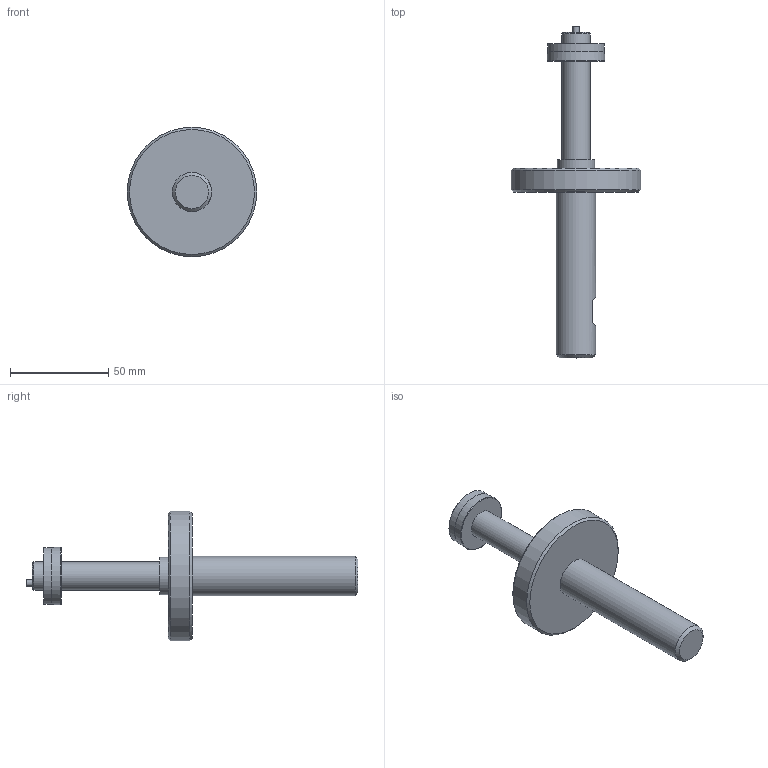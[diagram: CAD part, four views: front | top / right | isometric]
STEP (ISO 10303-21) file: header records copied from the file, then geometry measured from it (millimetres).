
FILE_DESCRIPTION (( 'STEP AP203' ), '1' );
FILE_NAME ('AF56-SIMPLE - AF56-14.50M-29.50M.step', '2025-01-22T13:32:33', ( '' ), ( '' ), 'SwSTEP 2.0', 'SolidWorks 2024', '' );
FILE_SCHEMA (( 'CONFIG_CONTROL_DESIGN' ));
Length unit declared in the file: inch
Products named in the file (1): AF56-SIMPLE - AF56-14.50M-29.50M
Bounding box: 66.04 x 169.29 x 66.04 mm (x, y, z)
Volume: 84108.9 mm3; surface area: 18986.2 mm2
Topology: 1 solids, 1 shells, 24 faces, 40 edges, 25 vertices
Faces by surface type: plane 11, cylinder 7, cone 5, torus 1
Full cylindrical faces by diameter (mm): 3.175 x1, 14.376 x2, 19.05 x1, 20 x1, 28.994 x1, 66.04 x1
Entity records: 569 total; most frequent: DIRECTION 94, CARTESIAN_POINT 81, ORIENTED_EDGE 52, AXIS2_PLACEMENT_3D 45, EDGE_LOOP 44, FACE_OUTER_BOUND 32, EDGE_CURVE 26, ADVANCED_FACE 24
